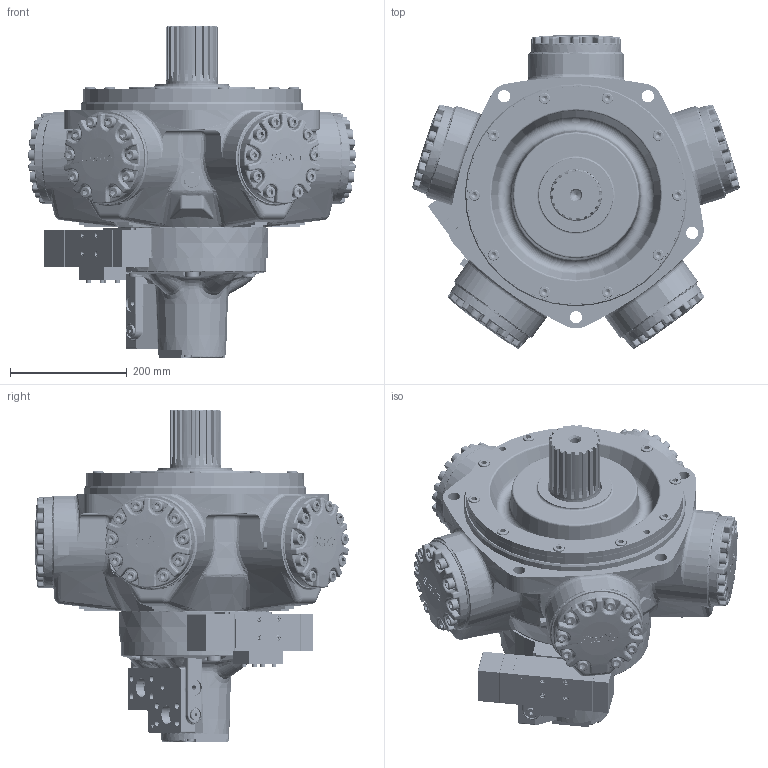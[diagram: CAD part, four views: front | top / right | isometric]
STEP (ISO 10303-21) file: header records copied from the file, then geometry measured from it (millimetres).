
FILE_DESCRIPTION((''),'2;1');
FILE_NAME('C:\Users\MNorman\Desktop\TEMP STUFF\HMC125 S FM3 CP 70.stp','2012-10-19T08:32:35',('MNorman'),(''),'Autodesk Inventor 2013','Autodesk Inventor 2013','');
FILE_SCHEMA(('AUTOMOTIVE_DESIGN { 1 0 10303 214 1 1 1 1 }'));
Length unit declared in the file: millimetre
Products named in the file (1): Part1
Bounding box: 562.07 x 537.19 x 569.42 mm (x, y, z)
Volume: 25728767.3 mm3; surface area: 2257796.3 mm2
Topology: 2 solids, 100 shells, 4531 faces, 10807 edges, 6726 vertices
Faces by surface type: plane 1798, cylinder 975, bspline 845, cone 444, torus 323, sphere 146
Full cylindrical faces by diameter (mm): 3 x2, 4 x6, 4.134 x4, 5 x8, 5.2 x4, 5.478 x4, 5.5 x6, 6 x1, 6.2 x6, 7.938 x4, 8 x2, 8.016 x1, 8.049 x4, 8.5 x8, 8.731 x4, 9.3 x4, 9.9 x4, 9.945 x1, 10.109 x8, 11.328 x62, 11.5 x1, 11.8 x2, 11.913 x4, 12.7 x60, 13.15 x1, 13.494 x10, 13.5 x50, 14.351 x5, 15.875 x5, 16.281 x5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
Entity records: 150448 total; most frequent: CARTESIAN_POINT 54595, ORIENTED_EDGE 18668, DIRECTION 16930, EDGE_CURVE 9334, AXIS2_PLACEMENT_3D 6691, VERTEX_POINT 6359, EDGE_LOOP 5967, FACE_OUTER_BOUND 4530
